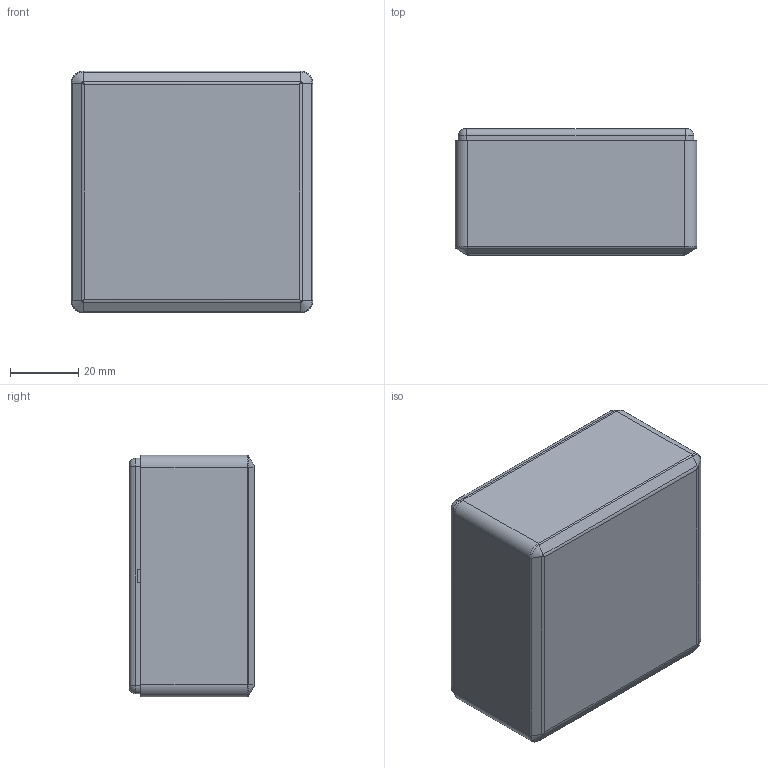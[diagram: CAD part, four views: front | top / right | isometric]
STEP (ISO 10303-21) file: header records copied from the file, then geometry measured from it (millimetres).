
FILE_DESCRIPTION (( 'STEP AP214' ), '1' );
FILE_NAME ('Conjunt PP117.STEP', '2018-06-07T06:32:27', ( 'aaa' ), ( '' ), 'SwSTEP 2.0', 'SolidWorks 2013', '' );
FILE_SCHEMA (( 'AUTOMOTIVE_DESIGN' ));
Length unit declared in the file: millimetre
Products named in the file (4): Cargol 2,2x6,95 PP117; Tapa PP117; Cos PP117; Conjunt PP117
Assembly tree (6 placements, depth 2):
  Conjunt PP117
    Cos PP117
    Tapa PP117
    Cargol 2,2x6,95 PP117  x4
Bounding box: 71 x 37 x 71 mm (x, y, z)
Volume: 39891.8 mm3; surface area: 42351.3 mm2
Topology: 6 solids, 6 shells, 468 faces, 1046 edges, 620 vertices
Faces by surface type: cone 172, plane 142, cylinder 130, torus 20, bspline 4
Entity records: 10052 total; most frequent: CARTESIAN_POINT 3046, DIRECTION 1564, ORIENTED_EDGE 1324, EDGE_CURVE 662, AXIS2_PLACEMENT_3D 615, VERTEX_POINT 413, EDGE_LOOP 343, VECTOR 334
